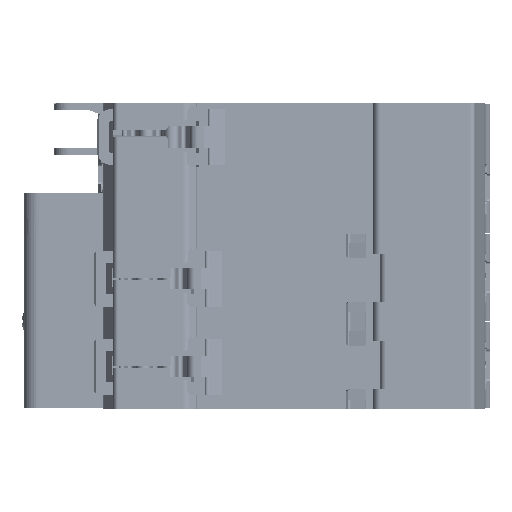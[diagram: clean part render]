
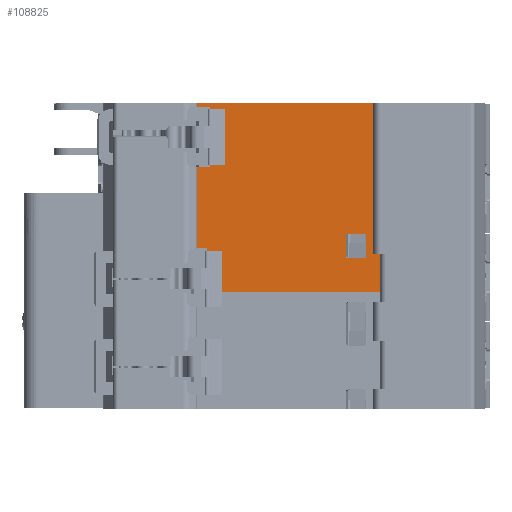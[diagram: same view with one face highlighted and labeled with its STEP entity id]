
A CAD part, front view. The second image highlights one B-rep face of the part: STEP entity #108825.
In plain terms, the highlighted planar face has unit normal (0, -1, 0).
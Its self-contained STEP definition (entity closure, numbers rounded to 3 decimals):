
#3982=DIRECTION('',(1.,0.,0.));
#3983=VECTOR('',#3982,0.789);
#3984=CARTESIAN_POINT('',(4.8,-37.,-15.45));
#3985=LINE('',#3984,#3983);
#3986=DIRECTION('',(0.,0.,1.));
#3987=VECTOR('',#3986,0.528);
#3988=CARTESIAN_POINT('',(4.8,-37.,-15.45));
#3989=LINE('',#3988,#3987);
#3990=DIRECTION('',(-1.,0.,0.));
#3991=VECTOR('',#3990,2.);
#3992=CARTESIAN_POINT('',(4.8,-37.,-14.922));
#3993=LINE('',#3992,#3991);
#3994=DIRECTION('',(1.,0.,0.));
#3995=VECTOR('',#3994,0.158);
#3996=CARTESIAN_POINT('',(5.4,-37.,1.85));
#3997=LINE('',#3996,#3995);
#3998=DIRECTION('',(0.,0.,-1.));
#3999=VECTOR('',#3998,11.3);
#4000=CARTESIAN_POINT('',(5.558,-37.,13.15));
#4001=LINE('',#4000,#3999);
#4002=DIRECTION('',(1.,0.,0.));
#4003=VECTOR('',#4002,0.158);
#4004=CARTESIAN_POINT('',(5.4,-37.,13.15));
#4005=LINE('',#4004,#4003);
#4006=DIRECTION('',(-1.,0.,0.));
#4007=VECTOR('',#4006,2.6);
#4008=CARTESIAN_POINT('',(5.4,-37.,13.5));
#4009=LINE('',#4008,#4007);
#4010=DIRECTION('',(0.,0.,1.));
#4011=VECTOR('',#4010,0.9);
#4012=CARTESIAN_POINT('',(2.8,-37.,13.5));
#4013=LINE('',#4012,#4011);
#4014=DIRECTION('',(1.,0.,0.));
#4015=VECTOR('',#4014,37.);
#4016=CARTESIAN_POINT('',(2.8,-37.,14.4));
#4017=LINE('',#4016,#4015);
#4018=DIRECTION('',(-1.,0.,0.));
#4019=VECTOR('',#4018,34.211);
#4020=CARTESIAN_POINT('',(39.8,-37.,-23.85));
#4021=LINE('',#4020,#4019);
#4022=DIRECTION('',(0.,0.,1.));
#4023=VECTOR('',#4022,8.4);
#4024=CARTESIAN_POINT('',(5.589,-37.,-23.85));
#4025=LINE('',#4024,#4023);
#4026=DIRECTION('',(-1.,0.,0.));
#4027=VECTOR('',#4026,4.062);
#4028=CARTESIAN_POINT('',(36.917,-37.,-12.));
#4029=LINE('',#4028,#4027);
#4030=DIRECTION('',(0.,0.,1.));
#4031=VECTOR('',#4030,4.5);
#4032=CARTESIAN_POINT('',(36.917,-37.,-16.5));
#4033=LINE('',#4032,#4031);
#5227=DIRECTION('',(0.,0.,1.));
#5228=VECTOR('',#5227,38.25);
#5229=CARTESIAN_POINT('',(39.8,-37.,-23.85));
#5230=LINE('',#5229,#5228);
#11877=DIRECTION('',(0.,0.,-1.));
#11878=VECTOR('',#11877,16.422);
#11879=CARTESIAN_POINT('',(2.8,-37.,1.5));
#11880=LINE('',#11879,#11878);
#12150=DIRECTION('',(-1.,0.,0.));
#12151=VECTOR('',#12150,2.6);
#12152=CARTESIAN_POINT('',(5.4,-37.,1.5));
#12153=LINE('',#12152,#12151);
#12250=DIRECTION('',(0.,0.,-1.));
#12251=VECTOR('',#12250,0.35);
#12252=CARTESIAN_POINT('',(5.4,-37.,1.85));
#12253=LINE('',#12252,#12251);
#12675=DIRECTION('',(0.,0.,-1.));
#12676=VECTOR('',#12675,0.35);
#12677=CARTESIAN_POINT('',(5.4,-37.,13.5));
#12678=LINE('',#12677,#12676);
#76788=DIRECTION('',(-1.,0.,0.));
#76789=VECTOR('',#76788,3.046);
#76790=CARTESIAN_POINT('',(36.41,-37.,-17.));
#76791=LINE('',#76790,#76789);
#76810=CARTESIAN_POINT('',(36.917,-37.,-16.5));
#76811=CARTESIAN_POINT('',(36.917,-37.,-16.668));
#76812=CARTESIAN_POINT('',(36.788,-37.,-16.875));
#76813=CARTESIAN_POINT('',(36.578,-37.,-17.));
#76814=CARTESIAN_POINT('',(36.41,-37.,-17.));
#76996=DIRECTION('',(0.,0.,1.));
#76997=VECTOR('',#76996,4.5);
#76998=CARTESIAN_POINT('',(32.856,-37.,-16.5));
#76999=LINE('',#76998,#76997);
#77008=CARTESIAN_POINT('',(33.363,-37.,-17.));
#77009=CARTESIAN_POINT('',(33.195,-37.,-17.));
#77010=CARTESIAN_POINT('',(32.985,-37.,-16.875));
#77011=CARTESIAN_POINT('',(32.856,-37.,-16.668));
#77012=CARTESIAN_POINT('',(32.856,-37.,-16.5));
#82206=CARTESIAN_POINT('',(39.8,-37.,14.4));
#82207=VERTEX_POINT('',#82206);
#82208=CARTESIAN_POINT('',(2.8,-37.,14.4));
#82209=VERTEX_POINT('',#82208);
#82324=CARTESIAN_POINT('',(2.8,-37.,13.5));
#82325=VERTEX_POINT('',#82324);
#82326=CARTESIAN_POINT('',(5.4,-37.,13.5));
#82327=VERTEX_POINT('',#82326);
#83403=CARTESIAN_POINT('',(5.4,-37.,1.5));
#83404=CARTESIAN_POINT('',(2.8,-37.,1.5));
#83405=VERTEX_POINT('',#83403);
#83406=VERTEX_POINT('',#83404);
#86769=CARTESIAN_POINT('',(5.4,-37.,13.15));
#86770=CARTESIAN_POINT('',(5.558,-37.,13.15));
#86771=VERTEX_POINT('',#86769);
#86772=VERTEX_POINT('',#86770);
#86773=CARTESIAN_POINT('',(5.4,-37.,1.85));
#86774=CARTESIAN_POINT('',(5.558,-37.,1.85));
#86775=VERTEX_POINT('',#86773);
#86776=VERTEX_POINT('',#86774);
#100646=CARTESIAN_POINT('',(2.8,-37.,-14.922));
#100647=VERTEX_POINT('',#100646);
#100648=CARTESIAN_POINT('',(4.8,-37.,-14.922));
#100649=VERTEX_POINT('',#100648);
#101152=CARTESIAN_POINT('',(39.8,-37.,-23.85));
#101154=VERTEX_POINT('',#101152);
#101187=CARTESIAN_POINT('',(36.41,-37.,-17.));
#101188=VERTEX_POINT('',#101187);
#101189=CARTESIAN_POINT('',(33.363,-37.,-17.));
#101190=VERTEX_POINT('',#101189);
#101191=CARTESIAN_POINT('',(36.917,-37.,-16.5));
#101192=VERTEX_POINT('',#101191);
#101215=CARTESIAN_POINT('',(32.856,-37.,-16.5));
#101216=VERTEX_POINT('',#101215);
#101978=CARTESIAN_POINT('',(36.917,-37.,-12.));
#101980=VERTEX_POINT('',#101978);
#101983=CARTESIAN_POINT('',(32.856,-37.,-12.));
#101985=VERTEX_POINT('',#101983);
#102839=CARTESIAN_POINT('',(4.8,-37.,-15.45));
#102840=CARTESIAN_POINT('',(5.589,-37.,-15.45));
#102841=VERTEX_POINT('',#102839);
#102842=VERTEX_POINT('',#102840);
#102843=CARTESIAN_POINT('',(5.589,-37.,-23.85));
#102844=VERTEX_POINT('',#102843);
#108773=CARTESIAN_POINT('',(2.8,-37.,9.));
#108774=DIRECTION('',(0.,-1.,0.));
#108775=DIRECTION('',(1.,0.,0.));
#108776=AXIS2_PLACEMENT_3D('',#108773,#108774,#108775);
#108777=PLANE('',#108776);
#108778=ORIENTED_EDGE('',*,*,#108725,.F.);
#108780=ORIENTED_EDGE('',*,*,#108779,.T.);
#108782=ORIENTED_EDGE('',*,*,#108781,.T.);
#108784=ORIENTED_EDGE('',*,*,#108783,.F.);
#108786=ORIENTED_EDGE('',*,*,#108785,.F.);
#108788=ORIENTED_EDGE('',*,*,#108787,.F.);
#108790=ORIENTED_EDGE('',*,*,#108789,.T.);
#108792=ORIENTED_EDGE('',*,*,#108791,.F.);
#108794=ORIENTED_EDGE('',*,*,#108793,.F.);
#108796=ORIENTED_EDGE('',*,*,#108795,.F.);
#108798=ORIENTED_EDGE('',*,*,#108797,.T.);
#108800=ORIENTED_EDGE('',*,*,#108799,.T.);
#108802=ORIENTED_EDGE('',*,*,#108801,.T.);
#108804=ORIENTED_EDGE('',*,*,#108803,.F.);
#108806=ORIENTED_EDGE('',*,*,#108805,.T.);
#108808=ORIENTED_EDGE('',*,*,#108807,.T.);
#108809=EDGE_LOOP('',(#108778,#108780,#108782,#108784,#108786,#108788,#108790,
#108792,#108794,#108796,#108798,#108800,#108802,#108804,#108806,#108808));
#108810=FACE_OUTER_BOUND('',#108809,.F.);
#108812=ORIENTED_EDGE('',*,*,#108811,.T.);
#108814=ORIENTED_EDGE('',*,*,#108813,.F.);
#108816=ORIENTED_EDGE('',*,*,#108815,.F.);
#108818=ORIENTED_EDGE('',*,*,#108817,.F.);
#108820=ORIENTED_EDGE('',*,*,#108819,.F.);
#108822=ORIENTED_EDGE('',*,*,#108821,.T.);
#108823=EDGE_LOOP('',(#108812,#108814,#108816,#108818,#108820,#108822));
#108824=FACE_BOUND('',#108823,.F.);
#108825=ADVANCED_FACE('',(#108810,#108824),#108777,.T.);
#76815=B_SPLINE_CURVE_WITH_KNOTS('',3,(#76810,#76811,#76812,#76813,#76814),
.UNSPECIFIED.,.F.,.F.,(4,1,4),(0.,0.5,1.),.UNSPECIFIED.);
#77013=B_SPLINE_CURVE_WITH_KNOTS('',3,(#77008,#77009,#77010,#77011,#77012),
.UNSPECIFIED.,.F.,.F.,(4,1,4),(0.,0.5,1.),.UNSPECIFIED.);
#108725=EDGE_CURVE('',#102841,#102842,#3985,.T.);
#108779=EDGE_CURVE('',#102841,#100649,#3989,.T.);
#108781=EDGE_CURVE('',#100649,#100647,#3993,.T.);
#108783=EDGE_CURVE('',#83406,#100647,#11880,.T.);
#108785=EDGE_CURVE('',#83405,#83406,#12153,.T.);
#108787=EDGE_CURVE('',#86775,#83405,#12253,.T.);
#108789=EDGE_CURVE('',#86775,#86776,#3997,.T.);
#108791=EDGE_CURVE('',#86772,#86776,#4001,.T.);
#108793=EDGE_CURVE('',#86771,#86772,#4005,.T.);
#108795=EDGE_CURVE('',#82327,#86771,#12678,.T.);
#108797=EDGE_CURVE('',#82327,#82325,#4009,.T.);
#108799=EDGE_CURVE('',#82325,#82209,#4013,.T.);
#108801=EDGE_CURVE('',#82209,#82207,#4017,.T.);
#108803=EDGE_CURVE('',#101154,#82207,#5230,.T.);
#108805=EDGE_CURVE('',#101154,#102844,#4021,.T.);
#108807=EDGE_CURVE('',#102844,#102842,#4025,.T.);
#108811=EDGE_CURVE('',#101980,#101985,#4029,.T.);
#108813=EDGE_CURVE('',#101216,#101985,#76999,.T.);
#108815=EDGE_CURVE('',#101190,#101216,#77013,.T.);
#108817=EDGE_CURVE('',#101188,#101190,#76791,.T.);
#108819=EDGE_CURVE('',#101192,#101188,#76815,.T.);
#108821=EDGE_CURVE('',#101192,#101980,#4033,.T.);
